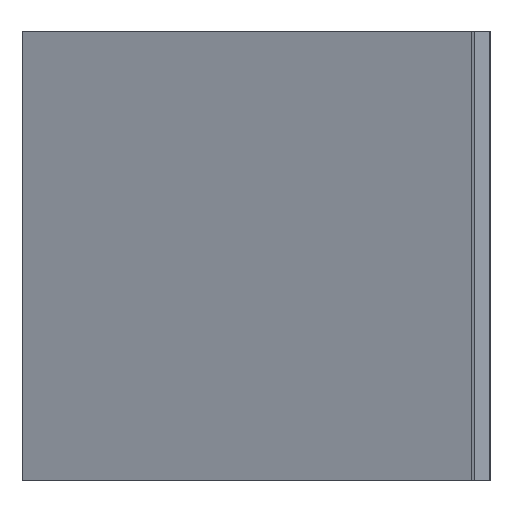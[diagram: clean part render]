
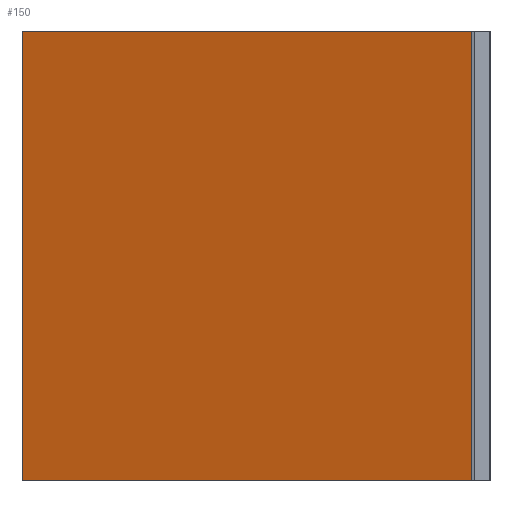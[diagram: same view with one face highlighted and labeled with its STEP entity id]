
A CAD part, left-side view. The second image highlights one B-rep face of the part: STEP entity #150.
In plain terms, the highlighted planar face has unit normal (0.946, -0.326, 0).
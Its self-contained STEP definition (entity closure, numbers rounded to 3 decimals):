
#98=CARTESIAN_POINT('Vertex',(20.,0.,0.)) ;
#101=CARTESIAN_POINT('Line Origine',(20.,0.,59.5)) ;
#105=CARTESIAN_POINT('Vertex',(20.,0.,119.)) ;
#120=CARTESIAN_POINT('Axis2P3D Location',(20.,0.,0.)) ;
#125=CARTESIAN_POINT('Line Origine',(40.5,59.5,0.)) ;
#129=CARTESIAN_POINT('Vertex',(61.,119.,0.)) ;
#132=CARTESIAN_POINT('Line Origine',(61.,119.,59.5)) ;
#136=CARTESIAN_POINT('Vertex',(61.,119.,119.)) ;
#139=CARTESIAN_POINT('Line Origine',(40.5,59.5,119.)) ;
#102=DIRECTION('Vector Direction',(0.,0.,1.)) ;
#121=DIRECTION('Axis2P3D Direction',(0.945,-0.326,0.)) ;
#122=DIRECTION('Axis2P3D XDirection',(0.326,0.945,0.)) ;
#126=DIRECTION('Vector Direction',(0.326,0.945,0.)) ;
#133=DIRECTION('Vector Direction',(0.,0.,1.)) ;
#140=DIRECTION('Vector Direction',(0.326,0.945,0.)) ;
#123=AXIS2_PLACEMENT_3D('Plane Axis2P3D',#120,#121,#122) ;
#145=ORIENTED_EDGE('',*,*,#107,.F.) ;
#146=ORIENTED_EDGE('',*,*,#131,.T.) ;
#147=ORIENTED_EDGE('',*,*,#138,.T.) ;
#148=ORIENTED_EDGE('',*,*,#143,.F.) ;
#103=VECTOR('Line Direction',#102,1.) ;
#127=VECTOR('Line Direction',#126,1.) ;
#134=VECTOR('Line Direction',#133,1.) ;
#141=VECTOR('Line Direction',#140,1.) ;
#150=ADVANCED_FACE('Extrude.1',(#149),#124,.T.) ;
#107=EDGE_CURVE('',#99,#106,#104,.T.) ;
#131=EDGE_CURVE('',#99,#130,#128,.T.) ;
#138=EDGE_CURVE('',#130,#137,#135,.T.) ;
#143=EDGE_CURVE('',#106,#137,#142,.T.) ;
#144=EDGE_LOOP('',(#145,#146,#147,#148)) ;
#149=FACE_OUTER_BOUND('',#144,.T.) ;
#104=LINE('Line',#101,#103) ;
#128=LINE('Line',#125,#127) ;
#135=LINE('Line',#132,#134) ;
#142=LINE('Line',#139,#141) ;
#124=PLANE('',#123) ;
#99=VERTEX_POINT('',#98) ;
#106=VERTEX_POINT('',#105) ;
#130=VERTEX_POINT('',#129) ;
#137=VERTEX_POINT('',#136) ;
